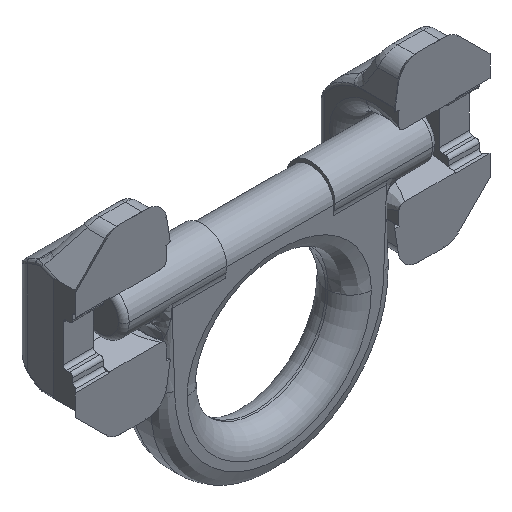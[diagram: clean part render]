
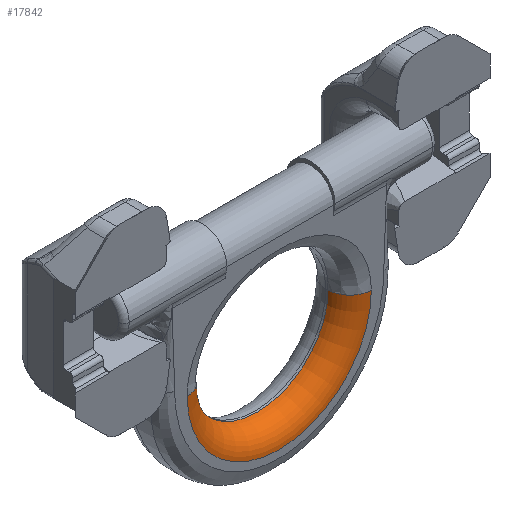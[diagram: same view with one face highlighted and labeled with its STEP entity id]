
A CAD part, isometric view. The second image highlights one B-rep face of the part: STEP entity #17842.
In plain terms, the highlighted toroidal (fillet/blend) face has major radius 84.998 mm and minor radius 20 mm.
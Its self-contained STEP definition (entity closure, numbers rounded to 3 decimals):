
#13550=CARTESIAN_POINT('',(0.,87.5,-21.002));
#13551=DIRECTION('',(0.,0.,-1.));
#13552=DIRECTION('',(-1.,0.,0.));
#13553=AXIS2_PLACEMENT_3D('',#13550,#13551,#13552);
#13555=CARTESIAN_POINT('',(-85.,87.5,
-21.001));
#13556=CARTESIAN_POINT('',(-83.691,87.502,
-21.001));
#13557=CARTESIAN_POINT('',(-81.073,87.504,
-20.745));
#13558=CARTESIAN_POINT('',(-77.296,87.507,
-19.599));
#13559=CARTESIAN_POINT('',(-73.815,87.509,
-17.739));
#13560=CARTESIAN_POINT('',(-70.765,87.51,
-15.235));
#13561=CARTESIAN_POINT('',(-68.261,87.509,
-12.185));
#13562=CARTESIAN_POINT('',(-66.401,87.507,
-8.704));
#13563=CARTESIAN_POINT('',(-65.255,87.504,
-4.927));
#13564=CARTESIAN_POINT('',(-64.999,87.502,
-2.309));
#13565=CARTESIAN_POINT('',(-65.,87.5,-1.));
#13567=CARTESIAN_POINT('',(0.,87.5,-1.));
#13568=DIRECTION('',(0.,0.,-1.));
#13569=DIRECTION('',(-1.,0.,0.));
#13570=AXIS2_PLACEMENT_3D('',#13567,#13568,#13569);
#13572=CARTESIAN_POINT('',(85.,87.5,
-21.001));
#13647=CARTESIAN_POINT('',(-85.,87.5,
-21.001));
#13649=CARTESIAN_POINT('',(85.,87.5,
-21.001));
#13650=CARTESIAN_POINT('',(83.691,87.501,
-21.001));
#13651=CARTESIAN_POINT('',(81.073,87.504,
-20.745));
#13652=CARTESIAN_POINT('',(77.296,87.506,
-19.599));
#13653=CARTESIAN_POINT('',(73.815,87.508,
-17.739));
#13654=CARTESIAN_POINT('',(70.765,87.508,
-15.235));
#13655=CARTESIAN_POINT('',(68.261,87.508,
-12.185));
#13656=CARTESIAN_POINT('',(66.401,87.506,
-8.704));
#13657=CARTESIAN_POINT('',(65.255,87.504,
-4.927));
#13658=CARTESIAN_POINT('',(64.999,87.501,
-2.309));
#13659=CARTESIAN_POINT('',(65.,87.5,-1.));
#13661=CARTESIAN_POINT('',(65.,87.5,-1.));
#13736=CARTESIAN_POINT('',(-65.,87.5,-1.));
#16219=VERTEX_POINT('',#13572);
#16220=VERTEX_POINT('',#13647);
#16221=VERTEX_POINT('',#13661);
#16222=VERTEX_POINT('',#13736);
#17828=CARTESIAN_POINT('',(0.,87.5,-1.002));
#17829=DIRECTION('',(0.,0.,1.));
#17830=DIRECTION('',(-1.,-0.013,0.));
#17831=AXIS2_PLACEMENT_3D('',#17828,#17829,#17830);
#17832=TOROIDAL_SURFACE('',#17831,84.998,20.);
#17834=ORIENTED_EDGE('',*,*,#17833,.F.);
#17836=ORIENTED_EDGE('',*,*,#17835,.T.);
#17837=ORIENTED_EDGE('',*,*,#17822,.T.);
#17839=ORIENTED_EDGE('',*,*,#17838,.F.);
#17840=EDGE_LOOP('',(#17834,#17836,#17837,#17839));
#17841=FACE_OUTER_BOUND('',#17840,.F.);
#17842=ADVANCED_FACE('',(#17841),#17832,.T.);
#13554=CIRCLE('',#13553,85.);
#13566=B_SPLINE_CURVE_WITH_KNOTS('',3,(#13555,#13556,#13557,#13558,#13559,
#13560,#13561,#13562,#13563,#13564,#13565),.UNSPECIFIED.,.F.,.F.,(4,1,1,1,1,1,1,
1,4),(0.,0.125,0.25,0.375,0.5,0.625,0.75,0.875,1.),
.UNSPECIFIED.);
#13571=CIRCLE('',#13570,64.998);
#13660=B_SPLINE_CURVE_WITH_KNOTS('',3,(#13649,#13650,#13651,#13652,#13653,
#13654,#13655,#13656,#13657,#13658,#13659),.UNSPECIFIED.,.F.,.F.,(4,1,1,1,1,1,1,
1,4),(0.,0.125,0.25,0.375,0.5,0.625,0.75,0.875,1.),
.UNSPECIFIED.);
#17822=EDGE_CURVE('',#16222,#16221,#13571,.T.);
#17833=EDGE_CURVE('',#16220,#16219,#13554,.T.);
#17835=EDGE_CURVE('',#16220,#16222,#13566,.T.);
#17838=EDGE_CURVE('',#16219,#16221,#13660,.T.);
